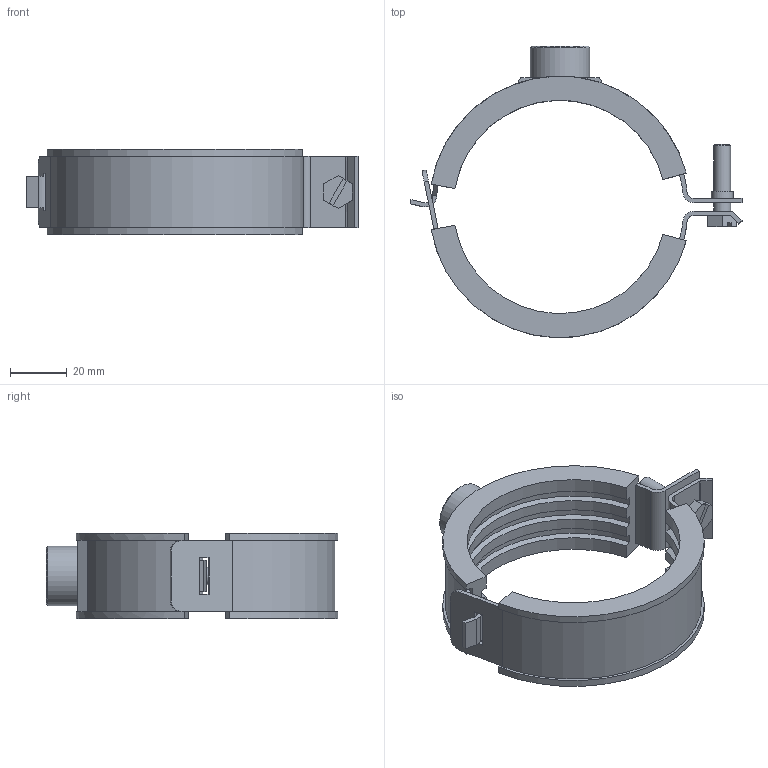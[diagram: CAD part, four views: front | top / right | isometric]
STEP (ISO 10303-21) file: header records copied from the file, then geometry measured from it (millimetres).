
FILE_DESCRIPTION(/* description */ (''),/* implementation_level */ '2;1');
FILE_NAME(/* name */ 'H:\Geberit-Teile\Export\Rohrschelle gedämmt ART\stp\307812.stp',/* time_stamp */ '2014-04-15T15:31:42+02:00',/* author */ ('seihe2'),/* organization */ (''),/* preprocessor_version */ 'ST-DEVELOPER v15.2',/* originating_system */ 'Autodesk Inventor 2014',/* authorisation */ '');
FILE_SCHEMA (('AUTOMOTIVE_DESIGN { 1 0 10303 214 3 1 1 }'));
Length unit declared in the file: millimetre
Products named in the file (1): 307812
Bounding box: 116.74 x 102.46 x 30 mm (x, y, z)
Volume: 54286.3 mm3; surface area: 28349.7 mm2
Topology: 1 solids, 2 shells, 137 faces, 368 edges, 238 vertices
Faces by surface type: plane 77, cylinder 46, cone 14
Full cylindrical faces by diameter (mm): 6 x2, 7.75 x1, 10 x1, 20.95 x1
Entity records: 4412 total; most frequent: DIRECTION 747, CARTESIAN_POINT 744, ORIENTED_EDGE 720, EDGE_CURVE 360, AXIS2_PLACEMENT_3D 250, LINE 247, VECTOR 247, VERTEX_POINT 237
